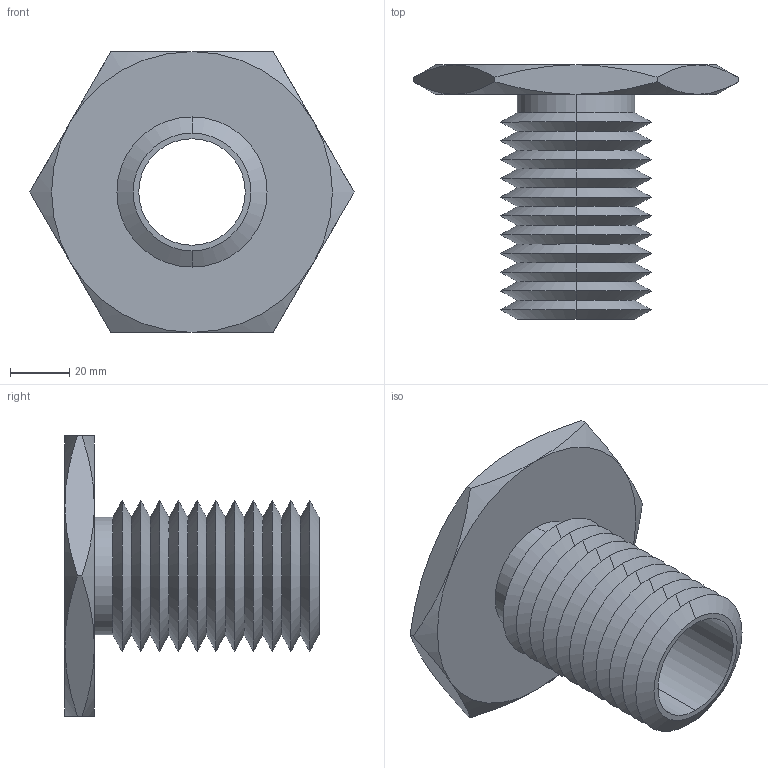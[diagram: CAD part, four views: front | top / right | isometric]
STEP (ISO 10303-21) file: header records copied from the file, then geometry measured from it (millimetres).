
FILE_DESCRIPTION (( 'STEP AP203' ), '1' );
FILE_NAME ('63302.W5200_M36x4.step', '2013-12-08T11:49:21', ( 'User' ), ( '' ), 'SwSTEP 2.0', 'SolidWorks 2009', '' );
FILE_SCHEMA (( 'CONFIG_CONTROL_DESIGN' ));
Length unit declared in the file: millimetre
Products named in the file (1): 63302.W5200_M36x4
Bounding box: 109.7 x 86 x 95 mm (x, y, z)
Volume: 108574.7 mm3; surface area: 46287.1 mm2
Topology: 1 solids, 1 shells, 71 faces, 146 edges, 78 vertices
Faces by surface type: cone 58, plane 9, cylinder 4
Entity records: 2071 total; most frequent: CARTESIAN_POINT 512, DIRECTION 332, ORIENTED_EDGE 292, EDGE_CURVE 146, AXIS2_PLACEMENT_3D 138, VERTEX_POINT 78, EDGE_LOOP 74, ADVANCED_FACE 71
